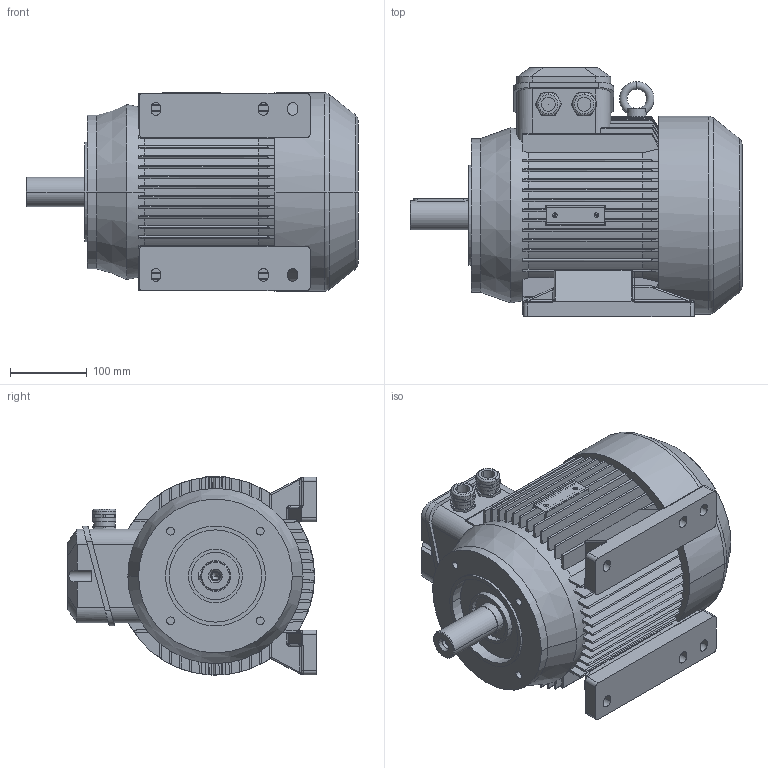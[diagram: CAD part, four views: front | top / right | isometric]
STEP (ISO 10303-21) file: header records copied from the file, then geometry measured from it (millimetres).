
FILE_DESCRIPTION (( 'STEP AP214' ), '1' );
FILE_NAME ('MAP132S2A IM2141 FT165.STEP', '2020-12-23T14:26:20', ( '' ), ( '' ), 'SwSTEP 2.0', 'SolidWorks 2018', '' );
FILE_SCHEMA (( 'AUTOMOTIVE_DESIGN' ));
Length unit declared in the file: millimetre
Products named in the file (1): MAP132S2A IM2141 FT165
Bounding box: 432 x 325 x 258 mm (x, y, z)
Volume: 16042775.6 mm3; surface area: 1079536.1 mm2
Topology: 1 solids, 6 shells, 1004 faces, 2712 edges, 1755 vertices
Faces by surface type: plane 516, cylinder 284, cone 121, bspline 54, torus 22, sphere 7
Entity records: 42025 total; most frequent: CARTESIAN_POINT 17616, ORIENTED_EDGE 5406, DIRECTION 4680, EDGE_CURVE 2703, VERTEX_POINT 1755, AXIS2_PLACEMENT_3D 1610, LINE 1460, VECTOR 1460
